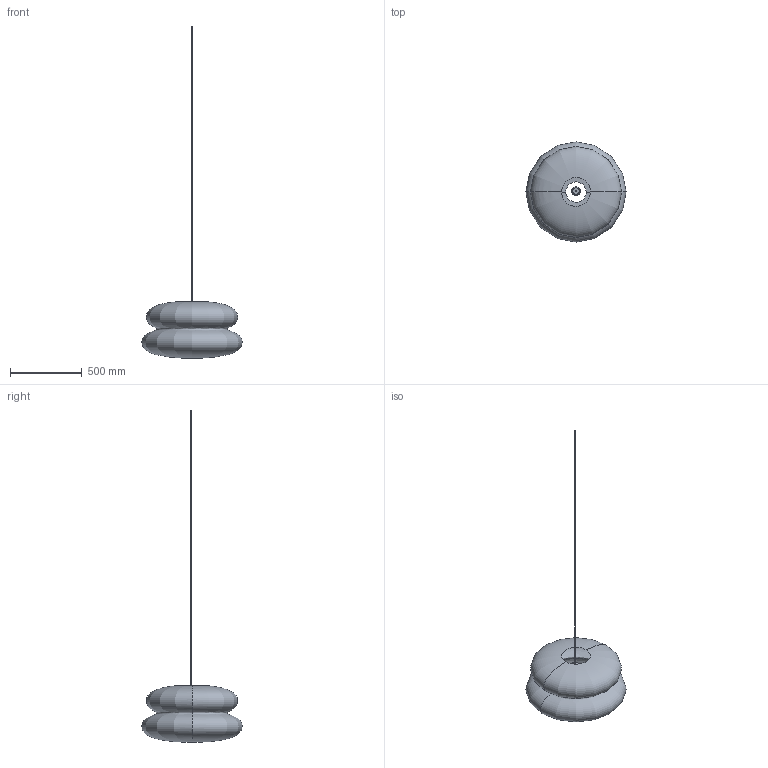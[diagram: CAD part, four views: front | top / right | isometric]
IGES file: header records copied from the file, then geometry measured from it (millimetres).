
Global section: file name: /Users/064_p/Desktop/3d data for homepage/SNOWMAN70 P.igs; native system: Rhinoceros ( Jul  7 2025 ); preprocessor: Trout Lake IGES 012 Jul  7 2025; date: 260805.074948; units: millimetre
Bounding box: 700 x 699.94 x 2319.21 mm (x, y, z)
Surface area: 1398086.7 mm2 (no closed solid volume)
Topology: 0 solids, 0 shells, 10 faces, 90 edges, 86 vertices
Faces by surface type: bspline 10
